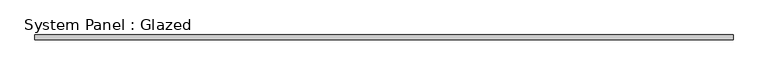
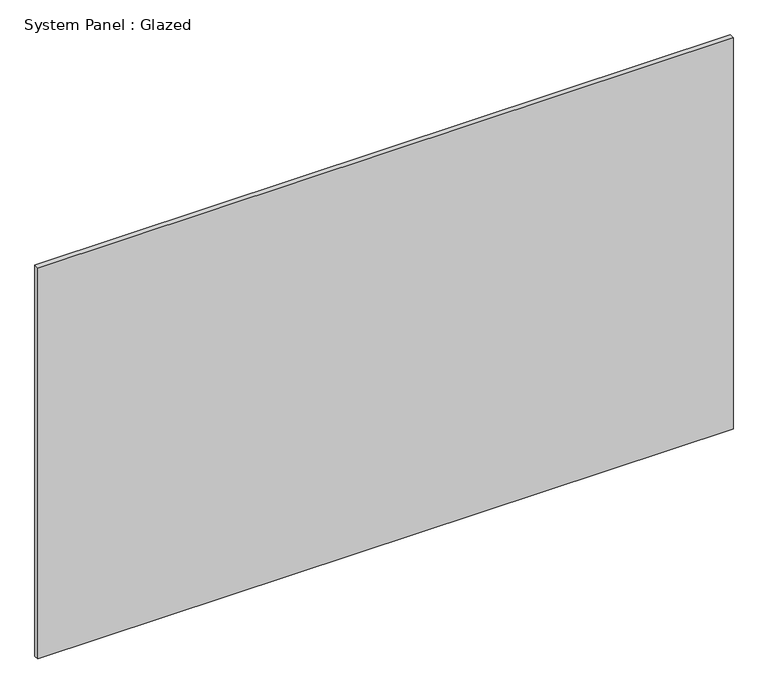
"""IFC4 building model written with IfcOpenShell, lengths in millimetres: plate geometry, System Panel : Glazed."""

from ifc_helpers import new_model, si_unit, origin, origin_with_axes, place, context, project, spatial, polyline, outline, extrude, source, transform, mapped, element, save


def system_panel_glazed_17fe7d0a(model_context):
    return source(origin(), model_context, "Body", "SweptSolid", [
        extrude(outline(polyline([(693.0108544, -5.0), (-693.0108544, -5.0), (-693.0108544, 5.0), (693.0108544, 5.0), (693.0108544, -5.0)])), origin_with_axes(), (0.0, 0.0, 1.0), 825.0),
    ])


if __name__ == "__main__":
    model = new_model("IFC4")
    model_context = context("Model", 3, world=origin())
    ifc_project = project(units=[si_unit("LENGTHUNIT", "METRE", prefix="MILLI")], contexts=[model_context])
    site = spatial("IfcSite", under=ifc_project)
    building = spatial("IfcBuilding", under=site)
    placement = place(None, origin())
    system_panel_glazed_shape = system_panel_glazed_17fe7d0a(model_context)
    element("IfcPlate", 1, ObjectType="System Panel : Glazed", at=placement, inside=building, context=model_context, shape_type="MappedRepresentation", body=[
        mapped(system_panel_glazed_shape, transform((0.0, 0.0, 0.0), x_axis=(1.0, 0.0, 0.0), y_axis=(0.0, 1.0, 0.0), z_axis=(0.0, 0.0, 1.0))),
    ])
    save(model, "model.ifc")
